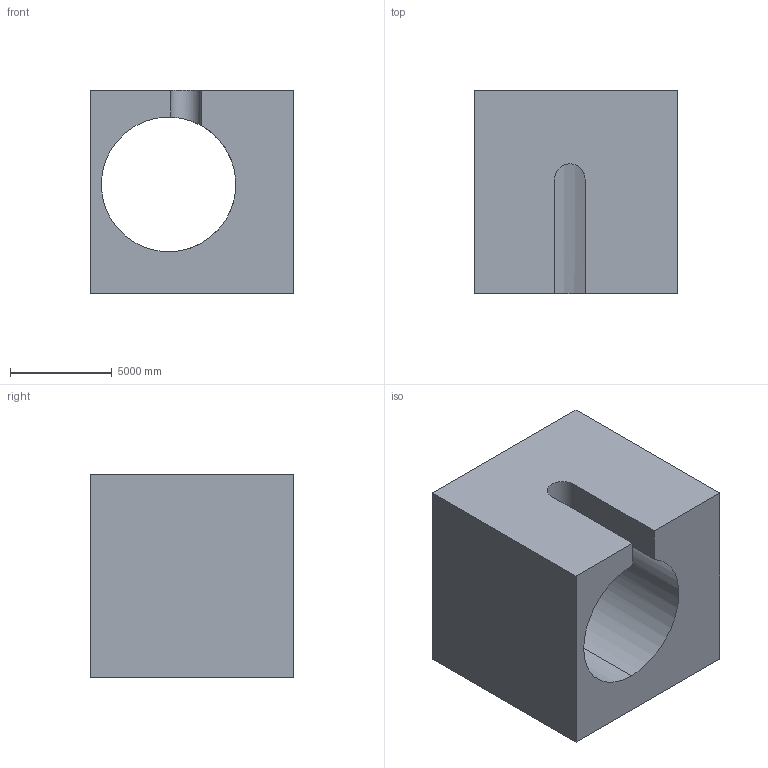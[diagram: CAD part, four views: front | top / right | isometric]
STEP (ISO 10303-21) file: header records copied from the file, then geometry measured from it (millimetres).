
FILE_DESCRIPTION (( 'STEP AP203' ), '1' );
FILE_NAME ('1010.STEP', '2022-08-18T12:24:40', ( 'user' ), ( '' ), 'SwSTEP 2.0', 'SolidWorks 2021', '' );
FILE_SCHEMA (( 'CONFIG_CONTROL_DESIGN' ));
Length unit declared in the file: centimetre
Products named in the file (1): 1010
Bounding box: 10000 x 10000 x 10000 mm (x, y, z)
Volume: 642121388076.4 mm3; surface area: 738582274 mm2
Topology: 1 solids, 1 shells, 11 faces, 30 edges, 20 vertices
Faces by surface type: plane 8, cylinder 3
Entity records: 548 total; most frequent: CARTESIAN_POINT 181, ORIENTED_EDGE 60, DIRECTION 59, EDGE_CURVE 30, LINE 23, VECTOR 23, VERTEX_POINT 20, AXIS2_PLACEMENT_3D 18
